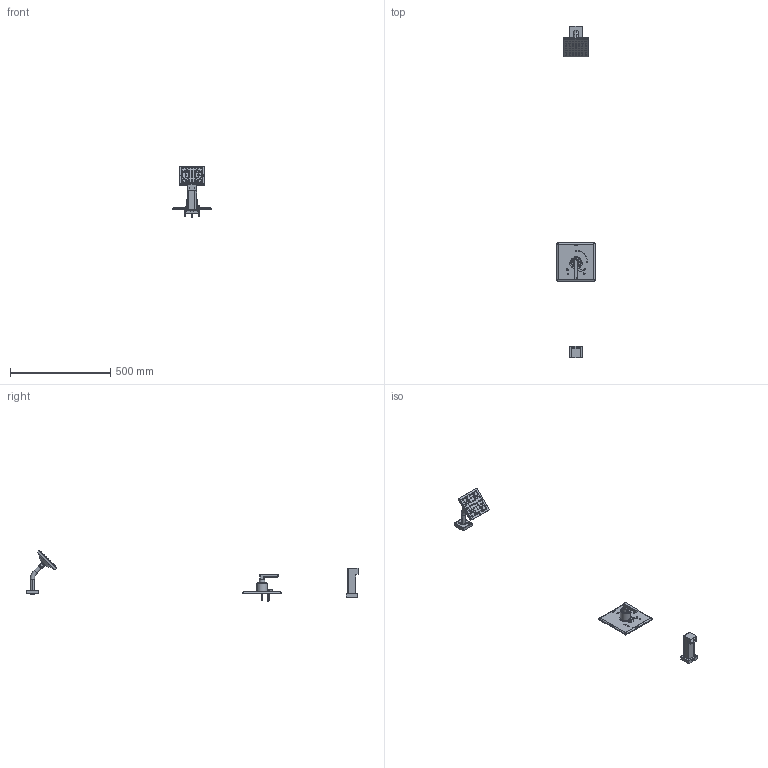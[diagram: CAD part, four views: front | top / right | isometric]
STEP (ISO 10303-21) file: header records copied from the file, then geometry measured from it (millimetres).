
FILE_DESCRIPTION (( 'STEP AP214' ), '1' );
FILE_NAME ('S3692TRM.STEP', '2025-01-15T10:43:11', ( '' ), ( '' ), 'SwSTEP 2.0', 'SolidWorks 2023', '' );
FILE_SCHEMA (( 'AUTOMOTIVE_DESIGN' ));
Products named in the file (1): S3692TRM
Bounding box: 190.5 x 1653.02 x 256.39 mm (x, y, z)
Surface area: 285384.4 mm2 (no closed solid volume)
Topology: 0 solids, 141 shells, 900 faces, 3547 edges, 2676 vertices
Faces by surface type: cylinder 316, plane 310, cone 144, bspline 100, torus 28, sphere 2
Entity records: 64974 total; most frequent: CARTESIAN_POINT 37642, DIRECTION 5133, ORIENTED_EDGE 5008, EDGE_CURVE 3534, VERTEX_POINT 2673, AXIS2_PLACEMENT_3D 1798, VECTOR 1537, LINE 1537
